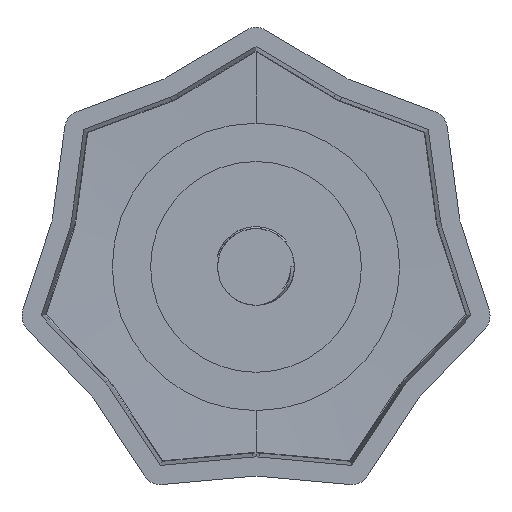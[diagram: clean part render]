
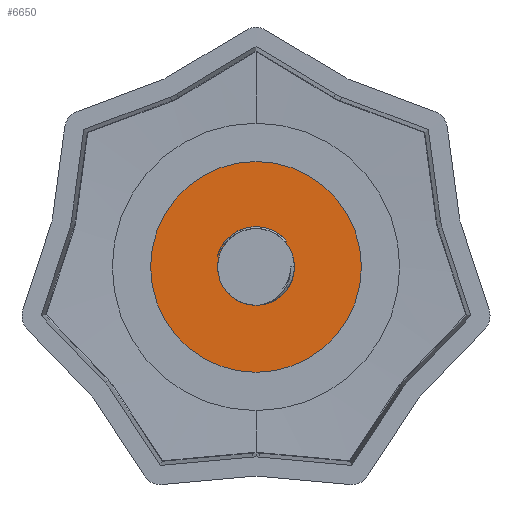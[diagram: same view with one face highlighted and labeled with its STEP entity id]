
A CAD part, front view. The second image highlights one B-rep face of the part: STEP entity #6650.
In plain terms, the highlighted planar face has unit normal (0, -1, 0).
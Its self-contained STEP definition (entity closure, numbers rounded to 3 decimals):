
#329 = EDGE_LOOP ( 'NONE', ( #8530, #6083, #1643, #1075, #5894 ) ) ;
#519 = DIRECTION ( 'NONE',  ( 0., -1., 0. ) ) ;
#890 = CARTESIAN_POINT ( 'NONE',  ( 0., -8., 0. ) ) ;
#979 = CARTESIAN_POINT ( 'NONE',  ( 0., -8., 0. ) ) ;
#1064 = EDGE_CURVE ( 'NONE', #4768, #1531, #3074, .T. ) ;
#1075 = ORIENTED_EDGE ( 'NONE', *, *, #5907, .F. ) ;
#1184 = DIRECTION ( 'NONE',  ( 0., -1., 0. ) ) ;
#1247 = AXIS2_PLACEMENT_3D ( 'NONE', #3356, #8033, #4033 ) ;
#1301 = AXIS2_PLACEMENT_3D ( 'NONE', #4535, #519, #5218 ) ;
#1502 = EDGE_CURVE ( 'NONE', #2192, #5459, #2035, .T. ) ;
#1531 = VERTEX_POINT ( 'NONE', #7675 ) ;
#1591 = CIRCLE ( 'NONE', #1301, 11. ) ;
#1643 = ORIENTED_EDGE ( 'NONE', *, *, #8329, .F. ) ;
#1656 = DIRECTION ( 'NONE',  ( 0., 0., -1. ) ) ;
#1784 = VERTEX_POINT ( 'NONE', #5698 ) ;
#2035 = CIRCLE ( 'NONE', #4664, 11. ) ;
#2095 = FACE_BOUND ( 'NONE', #329, .T. ) ;
#2192 = VERTEX_POINT ( 'NONE', #7116 ) ;
#2282 = CARTESIAN_POINT ( 'NONE',  ( -3.001, -8., 2.754 ) ) ;
#2491 = CARTESIAN_POINT ( 'NONE',  ( 0., -8., 0. ) ) ;
#2614 = CIRCLE ( 'NONE', #7080, 4. ) ;
#2945 = CARTESIAN_POINT ( 'NONE',  ( -3.483, -8., 2.207 ) ) ;
#2954 = B_SPLINE_CURVE_WITH_KNOTS ( 'NONE', 3,
 ( #4282, #7587, #6302, #2282, #6974, #2945, #7636, #3629, #8300, #4310 ),
 .UNSPECIFIED., .F., .F.,
 ( 4, 2, 2, 2, 4 ),
 ( 0.006, 0.006, 0.007, 0.008, 0.008 ),
 .UNSPECIFIED. ) ;
#2958 = VERTEX_POINT ( 'NONE', #3062 ) ;
#2967 = CARTESIAN_POINT ( 'NONE',  ( 0., -8., 0. ) ) ;
#2970 = AXIS2_PLACEMENT_3D ( 'NONE', #2491, #7853, #3845 ) ;
#3062 = CARTESIAN_POINT ( 'NONE',  ( 3.064, -8., 2.571 ) ) ;
#3074 = CIRCLE ( 'NONE', #1247, 4.2 ) ;
#3356 = CARTESIAN_POINT ( 'NONE',  ( 0., -8., 0. ) ) ;
#3399 = ORIENTED_EDGE ( 'NONE', *, *, #1502, .T. ) ;
#3629 = CARTESIAN_POINT ( 'NONE',  ( -3.864, -8., 1.578 ) ) ;
#3653 = DIRECTION ( 'NONE',  ( 0., 0., -1. ) ) ;
#3845 = DIRECTION ( 'NONE',  ( 0., 0., -1. ) ) ;
#3878 = FACE_OUTER_BOUND ( 'NONE', #4667, .T. ) ;
#4023 = EDGE_CURVE ( 'NONE', #5459, #2192, #1591, .T. ) ;
#4033 = DIRECTION ( 'NONE',  ( 0., 0., -1. ) ) ;
#4076 = ORIENTED_EDGE ( 'NONE', *, *, #4023, .T. ) ;
#4282 = CARTESIAN_POINT ( 'NONE',  ( -2.214, -8., 3.331 ) ) ;
#4310 = CARTESIAN_POINT ( 'NONE',  ( -4.047, -8., 1.124 ) ) ;
#4535 = CARTESIAN_POINT ( 'NONE',  ( 0., -8., 0. ) ) ;
#4664 = AXIS2_PLACEMENT_3D ( 'NONE', #979, #5673, #1656 ) ;
#4667 = EDGE_LOOP ( 'NONE', ( #4076, #3399 ) ) ;
#4768 = VERTEX_POINT ( 'NONE', #6837 ) ;
#4776 = CARTESIAN_POINT ( 'NONE',  ( 0., -8., -4. ) ) ;
#5045 = VECTOR ( 'NONE', #5581, 1000. ) ;
#5185 = EDGE_CURVE ( 'NONE', #1784, #4768, #2954, .T. ) ;
#5206 = CARTESIAN_POINT ( 'NONE',  ( 0., -8., 0. ) ) ;
#5218 = DIRECTION ( 'NONE',  ( 0., 0., -1. ) ) ;
#5459 = VERTEX_POINT ( 'NONE', #7859 ) ;
#5581 = DIRECTION ( 'NONE',  ( -0.766, 0., -0.643 ) ) ;
#5673 = DIRECTION ( 'NONE',  ( 0., -1., 0. ) ) ;
#5698 = CARTESIAN_POINT ( 'NONE',  ( -2.214, -8., 3.331 ) ) ;
#5744 = EDGE_CURVE ( 'NONE', #1531, #2958, #8586, .T. ) ;
#5874 = DIRECTION ( 'NONE',  ( 0., 0., -1. ) ) ;
#5894 = ORIENTED_EDGE ( 'NONE', *, *, #5185, .T. ) ;
#5907 = EDGE_CURVE ( 'NONE', #1784, #8014, #2614, .T. ) ;
#6083 = ORIENTED_EDGE ( 'NONE', *, *, #5744, .T. ) ;
#6302 = CARTESIAN_POINT ( 'NONE',  ( -2.627, -8., 3.068 ) ) ;
#6650 = ADVANCED_FACE ( 'NONE', ( #3878, #2095 ), #7187, .T. ) ;
#6837 = CARTESIAN_POINT ( 'NONE',  ( -4.047, -8., 1.124 ) ) ;
#6918 = AXIS2_PLACEMENT_3D ( 'NONE', #2967, #7659, #3653 ) ;
#6974 = CARTESIAN_POINT ( 'NONE',  ( -3.172, -8., 2.581 ) ) ;
#7080 = AXIS2_PLACEMENT_3D ( 'NONE', #5206, #1184, #5874 ) ;
#7116 = CARTESIAN_POINT ( 'NONE',  ( 0., -8., -11. ) ) ;
#7187 = PLANE ( 'NONE',  #2970 ) ;
#7513 = CIRCLE ( 'NONE', #6918, 4. ) ;
#7587 = CARTESIAN_POINT ( 'NONE',  ( -2.425, -8., 3.21 ) ) ;
#7636 = CARTESIAN_POINT ( 'NONE',  ( -3.624, -8., 2.004 ) ) ;
#7659 = DIRECTION ( 'NONE',  ( 0., -1., 0. ) ) ;
#7675 = CARTESIAN_POINT ( 'NONE',  ( 3.217, -8., 2.7 ) ) ;
#7853 = DIRECTION ( 'NONE',  ( 0., -1., 0. ) ) ;
#7859 = CARTESIAN_POINT ( 'NONE',  ( 0., -8., 11. ) ) ;
#8014 = VERTEX_POINT ( 'NONE', #4776 ) ;
#8033 = DIRECTION ( 'NONE',  ( 0., 1., 0. ) ) ;
#8300 = CARTESIAN_POINT ( 'NONE',  ( -3.965, -8., 1.356 ) ) ;
#8329 = EDGE_CURVE ( 'NONE', #8014, #2958, #7513, .T. ) ;
#8530 = ORIENTED_EDGE ( 'NONE', *, *, #1064, .T. ) ;
#8586 = LINE ( 'NONE', #890, #5045 ) ;
